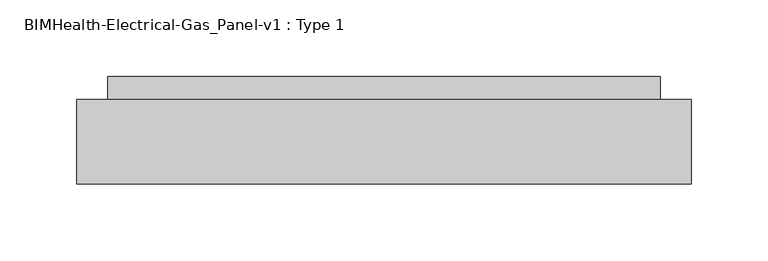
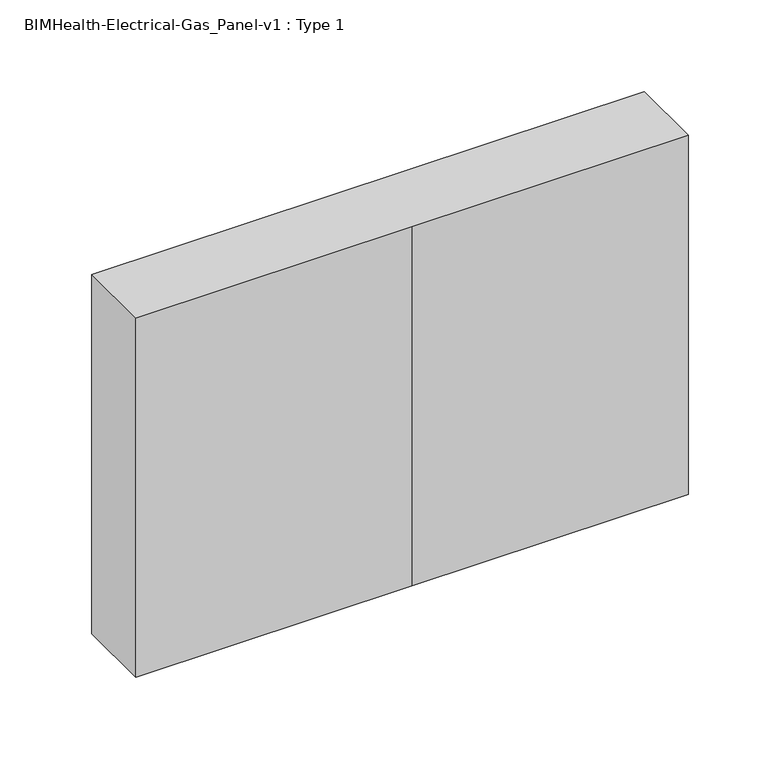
"""IFC4 building model written with IfcOpenShell, lengths in millimetres: proxy geometry, BIMHealth-Electrical-Gas_Panel-v1 : Type 1."""

from ifc_helpers import new_model, si_unit, frame, origin, place, context, project, spatial, polyline, outline, extrude, source, transform, mapped, element, save


def bimhealth_electrical_gas_panel_v1_type_1_a7d1eeb7(model_context):
    return source(origin(), model_context, "Body", "SweptSolid", [
        extrude(outline(polyline([(1379.7567641, 22.3988193), (1387.1413795, 25.3357184), (1387.1413795, 24.3477376), (1381.821067, 22.3807905), (1380.6221487, 21.982353), (1381.821067, 21.5893241), (1387.1413795, 19.6169684), (1387.1413795, 18.6307905), (1379.7567641, 21.4468962), (1379.7567641, 22.3988193)])), frame((0.0, 116.9965572, 0.0), z_axis=(0.0, 1.0, 0.0), x_axis=(0.0, 0.0, 1.0)), (0.0, 0.0, 1.0), 1.0),
        extrude(outline(polyline([(1380.1029179, 14.309276), (1379.8234708, 15.3197929), (1379.6413795, 16.3086751), (1380.0794804, 17.6491198), (1381.1990718, 18.1169684), (1382.9009949, 16.0310309), (1383.2183025, 14.4300693), (1384.3721487, 15.6993001), (1384.1945646, 16.6331943), (1383.679841, 18.0015837), (1384.5812833, 17.6022448), (1385.1095285, 16.7981583), (1385.2952256, 15.5803097), (1385.1311631, 14.4616198), (1383.2850093, 13.5015837), (1382.1365718, 13.5015837), (1380.5329059, 13.4547087), (1379.7567641, 13.2708145), (1380.1029179, 14.309276)]), holes=[polyline([(1381.8075453, 14.5003818), (1382.0121727, 15.9138434), (1381.8625333, 16.708014), (1380.5644564, 16.1121607), (1380.7853098, 15.1782664), (1381.8075453, 14.5003818)])]), frame((0.0, 116.9965572, 0.0), z_axis=(0.0, 1.0, 0.0), x_axis=(0.0, 0.0, 1.0)), (0.0, 0.0, 1.0), 1.0),
        extrude(outline(polyline([(1381.7183025, 8.7708145), (1381.6029179, 7.8477376), (1380.1615117, 8.5887232), (1379.6413795, 10.0526655), (1380.3670405, 11.802365), (1382.4484708, 12.4631222), (1383.9818242, 12.1809708), (1384.9671006, 11.3209948), (1385.2952256, 10.0652857), (1384.8445045, 8.66174), (1383.5644564, 7.9631222), (1383.4490718, 8.8861991), (1384.140478, 9.3143842), (1383.9160189, 11.1280861), (1382.4737112, 11.5400453), (1381.0178819, 11.1371006), (1380.5644564, 10.0833145), (1380.8475093, 9.2134227), (1381.7183025, 8.7708145)])), frame((0.0, 116.9965572, 0.0), z_axis=(0.0, 1.0, 0.0), x_axis=(0.0, 0.0, 1.0)), (0.0, 0.0, 1.0), 1.0),
        extrude(outline(polyline([(1379.7567641, 3.5785068), (1380.6888554, 3.5785068), (1379.6413795, 5.2443722), (1379.8252737, 6.1124611), (1381.8246727, 7.0400453), (1385.179841, 7.0400453), (1385.179841, 6.1169684), (1382.2591679, 6.1169684), (1381.3180622, 6.0610789), (1380.7699852, 4.2374611), (1382.3583266, 3.5785068), (1385.179841, 3.5785068), (1385.179841, 2.6554299), (1379.7567641, 2.6554299), (1379.7567641, 3.5785068)])), frame((0.0, 116.9965572, 0.0), z_axis=(0.0, 1.0, 0.0), x_axis=(0.0, 0.0, 1.0)), (0.0, 0.0, 1.0), 1.0),
        extrude(outline(polyline([(1379.7567641, -2.0753393), (1380.6888554, -2.0753393), (1379.6413795, -0.409474), (1379.8252737, 0.458615), (1381.8246727, 1.3861991), (1385.179841, 1.3861991), (1385.179841, 0.4631222), (1382.2591679, 0.4631222), (1381.3180622, 0.4072328), (1380.7699852, -1.416385), (1382.3583266, -2.0753393), (1385.179841, -2.0753393), (1385.179841, -2.9984163), (1379.7567641, -2.9984163), (1379.7567641, -2.0753393)])), frame((0.0, 116.9965572, 0.0), z_axis=(0.0, 1.0, 0.0), x_axis=(0.0, 0.0, 1.0)), (0.0, 0.0, 1.0), 1.0),
        extrude(outline(polyline([(1379.7567641, -4.267647), (1385.179841, -4.267647), (1385.179841, -5.190724), (1384.2874131, -5.190724), (1385.0184828, -5.8253393), (1385.2952256, -6.7285845), (1385.0130742, -7.6534643), (1384.2225093, -8.1618778), (1385.2952256, -9.7916855), (1384.8490117, -10.9987167), (1383.4743122, -11.4214932), (1379.7567641, -11.4214932), (1379.7567641, -10.4984163), (1383.0776775, -10.4984163), (1384.0025574, -8.6675869), (1382.8180622, -8.3061086), (1379.7567641, -8.3061086), (1379.7567641, -7.3830316), (1383.180442, -7.3830316), (1384.0746727, -7.1693898), (1382.49174, -5.190724), (1379.7567641, -5.190724), (1379.7567641, -4.267647)])), frame((0.0, 116.9965572, 0.0), z_axis=(0.0, 1.0, 0.0), x_axis=(0.0, 0.0, 1.0)), (0.0, 0.0, 1.0), 1.0),
        extrude(outline(polyline([(1379.7567641, 107.0785068), (1387.1413795, 107.0785068), (1387.1413795, 105.4955741), (1381.9364516, 103.981151), (1380.8493122, 103.6746607), (1382.0265958, 103.3447328), (1387.1413795, 101.8591559), (1387.1413795, 100.2708145), (1379.7567641, 100.2708145), (1379.7567641, 101.1938914), (1386.2183025, 101.1938914), (1379.7567641, 103.0490597), (1379.7567641, 104.2984587), (1386.2183025, 106.1554299), (1379.7567641, 106.1554299), (1379.7567641, 107.0785068)])), frame((0.0, 116.9965572, 0.0), z_axis=(0.0, 1.0, 0.0), x_axis=(0.0, 0.0, 1.0)), (0.0, 0.0, 1.0), 1.0),
        extrude(outline(polyline([(1381.3721487, 94.9739395), (1381.2567641, 94.0688914), (1380.0650574, 94.9153458), (1379.6413795, 96.4919684), (1380.3724492, 98.4084347), (1382.4232304, 99.1169684), (1384.5416199, 98.4012232), (1385.2952256, 96.544252), (1384.5434227, 94.740466), (1382.4286391, 94.0400453), (1382.179841, 98.1938914), (1380.9809227, 97.6629419), (1380.5644564, 96.4739395), (1380.757365, 95.5688914), (1381.3721487, 94.9739395)]), holes=[polyline([(1383.1029179, 98.1938914), (1383.1029179, 94.9631222), (1383.9394564, 95.3327135), (1384.3721487, 96.5478578), (1384.0268963, 97.6845765), (1383.1029179, 98.1938914)])]), frame((0.0, 116.9965572, 0.0), z_axis=(0.0, 1.0, 0.0), x_axis=(0.0, 0.0, 1.0)), (0.0, 0.0, 1.0), 1.0),
        extrude(outline(polyline([(1379.7567641, 89.7708145), (1380.6275574, 89.7708145), (1379.6413795, 91.2257424), (1379.9983506, 92.3687712), (1380.9944444, 93.1764635), (1382.4628939, 93.4631222), (1383.9322449, 93.1989996), (1384.9436631, 92.4075333), (1385.2952256, 91.2293482), (1385.0437232, 90.3783866), (1384.3901775, 89.7708145), (1387.1413795, 89.7708145), (1387.1413795, 88.8477376), (1379.7567641, 88.8477376), (1379.7567641, 89.7708145)]), holes=[polyline([(1382.4664997, 92.5400453), (1381.0377136, 92.1235789), (1380.5644564, 91.1410068), (1381.016079, 90.1701535), (1382.3961872, 89.7708145), (1383.8943843, 90.177365), (1384.3721487, 91.1788674), (1383.9133146, 92.1506222), (1382.4664997, 92.5400453)])]), frame((0.0, 116.9965572, 0.0), z_axis=(0.0, 1.0, 0.0), x_axis=(0.0, 0.0, 1.0)), (0.0, 0.0, 1.0), 1.0),
        extrude(outline(polyline([(86.5400453, 117.9965572), (87.4631222, 117.9965572), (87.4631222, 116.9965572), (86.5400453, 116.9965572), (86.5400453, 117.9965572)])), frame((0.0, 0.0, 1386.2183025), z_axis=(0.0, 0.0, 1.0), x_axis=(1.0, 0.0, 0.0)), (0.0, 0.0, 1.0), 0.9230769),
        extrude(outline(polyline([(86.5400453, 117.9965572), (87.4631222, 117.9965572), (87.4631222, 116.9965572), (86.5400453, 116.9965572), (86.5400453, 117.9965572)])), frame((0.0, 0.0, 1379.7567641), z_axis=(0.0, 0.0, 1.0), x_axis=(1.0, 0.0, 0.0)), (0.0, 0.0, 1.0), 5.4230769),
        extrude(outline(polyline([(1381.7183025, 81.6938914), (1381.6029179, 80.7708145), (1380.1615117, 81.5118001), (1379.6413795, 82.9757424), (1380.3670405, 84.7254419), (1382.4484708, 85.3861991), (1383.9818242, 85.1040477), (1384.9671006, 84.2440717), (1385.2952256, 82.9883626), (1384.8445045, 81.5848169), (1383.5644564, 80.8861991), (1383.4490718, 81.809276), (1384.140478, 82.2374611), (1383.9160189, 84.0511631), (1382.4737112, 84.4631222), (1381.0178819, 84.0601775), (1380.5644564, 83.0063914), (1380.8475093, 82.1364996), (1381.7183025, 81.6938914)])), frame((0.0, 116.9965572, 0.0), z_axis=(0.0, 1.0, 0.0), x_axis=(0.0, 0.0, 1.0)), (0.0, 0.0, 1.0), 1.0),
        extrude(outline(polyline([(1380.1029179, 76.3861991), (1379.8234708, 77.396716), (1379.6413795, 78.3855982), (1380.0794804, 79.7260429), (1381.1990718, 80.1938914), (1382.9009949, 78.1079539), (1383.2183025, 76.5069924), (1384.3721487, 77.7762232), (1384.1945646, 78.7101174), (1383.679841, 80.0785068), (1384.5812833, 79.6791679), (1385.1095285, 78.8750813), (1385.2952256, 77.6572328), (1385.1311631, 76.5385429), (1383.2850093, 75.5785068), (1382.1365718, 75.5785068), (1380.5329059, 75.5316318), (1379.7567641, 75.3477376), (1380.1029179, 76.3861991)]), holes=[polyline([(1381.8075453, 76.5773049), (1382.0121727, 77.9907664), (1381.8625333, 78.7849371), (1380.5644564, 78.1890837), (1380.7853098, 77.2551895), (1381.8075453, 76.5773049)])]), frame((0.0, 116.9965572, 0.0), z_axis=(0.0, 1.0, 0.0), x_axis=(0.0, 0.0, 1.0)), (0.0, 0.0, 1.0), 1.0),
        extrude(outline(polyline([(73.3861991, 117.9965572), (74.309276, 117.9965572), (74.309276, 116.9965572), (73.3861991, 116.9965572), (73.3861991, 117.9965572)])), frame((0.0, 0.0, 1379.7567641), z_axis=(0.0, 0.0, 1.0), x_axis=(1.0, 0.0, 0.0)), (0.0, 0.0, 1.0), 7.3846154),
        extrude(outline(polyline([(1379.7567641, 69.8597568), (1387.1413795, 66.9120405), (1387.1413795, 66.1259828), (1379.7567641, 63.1800693), (1379.7567641, 64.1554299), (1382.0644564, 64.9991799), (1382.0644564, 68.0424491), (1379.7567641, 68.8861991), (1379.7567641, 69.8597568)]), holes=[polyline([(1382.9875333, 67.7035068), (1382.9875333, 65.3363193), (1384.8030381, 66.0033866), (1386.2183025, 66.5208145), (1384.961692, 66.9805501), (1382.9875333, 67.7035068)])]), frame((0.0, 116.9965572, 0.0), z_axis=(0.0, 1.0, 0.0), x_axis=(0.0, 0.0, 1.0)), (0.0, 0.0, 1.0), 1.0),
        extrude(outline(polyline([(61.3861991, 117.9965572), (62.309276, 117.9965572), (62.309276, 116.9965572), (61.3861991, 116.9965572), (61.3861991, 117.9965572)])), frame((0.0, 0.0, 1386.2183025), z_axis=(0.0, 0.0, 1.0), x_axis=(1.0, 0.0, 0.0)), (0.0, 0.0, 1.0), 0.9230769),
        extrude(outline(polyline([(61.3861991, 117.9965572), (62.309276, 117.9965572), (62.309276, 116.9965572), (61.3861991, 116.9965572), (61.3861991, 117.9965572)])), frame((0.0, 0.0, 1379.7567641), z_axis=(0.0, 0.0, 1.0), x_axis=(1.0, 0.0, 0.0)), (0.0, 0.0, 1.0), 5.4230769),
        extrude(outline(polyline([(1379.7567641, 60.0015837), (1385.179841, 60.0015837), (1385.179841, 59.1938914), (1384.3775574, 59.1938914), (1385.11674, 58.6205741), (1385.0103699, 57.1169684), (1384.1828458, 57.4252616), (1382.6071247, 59.0785068), (1379.7567641, 59.0785068), (1379.7567641, 60.0015837)])), frame((0.0, 116.9965572, 0.0), z_axis=(0.0, 1.0, 0.0), x_axis=(0.0, 0.0, 1.0)), (0.0, 0.0, 1.0), 1.0),
        extrude(outline(polyline([(1383.351716, 183.6746607), (1386.2201054, 182.6902857), (1387.2567641, 180.1500212), (1386.7699852, 178.3128818), (1385.4124131, 177.0652857), (1383.4364516, 176.6361991), (1381.4334468, 177.0878217), (1380.0957064, 178.3678698), (1379.6413795, 180.1554299), (1380.1434828, 182.012401), (1381.5136751, 183.2527857), (1383.351716, 183.6746607)]), holes=[polyline([(1383.3427016, 182.7515837), (1381.3072449, 182.0133025), (1380.5644564, 180.1608385), (1381.3144564, 178.2921486), (1383.4436631, 177.559276), (1384.9671006, 177.872978), (1385.9758146, 178.7897448), (1386.3336872, 180.1446126), (1385.6440838, 181.981752), (1383.3427016, 182.7515837)])]), frame((0.0, 116.9965572, 0.0), z_axis=(0.0, 1.0, 0.0), x_axis=(0.0, 0.0, 1.0)), (0.0, 0.0, 1.0), 1.0),
        extrude(outline(polyline([(1379.7567641, 176.059276), (1382.4845285, 174.0869203), (1385.179841, 175.9438914), (1385.179841, 174.8369203), (1383.8799612, 173.9408866), (1385.179841, 172.1361991), (1385.179841, 171.0256222), (1382.4827256, 172.9763434), (1379.7567641, 171.0977376), (1379.7567641, 172.2065116), (1381.3973891, 173.3387232), (1379.7567641, 174.9486991), (1379.7567641, 176.059276)])), frame((0.0, 116.9965572, 0.0), z_axis=(0.0, 1.0, 0.0), x_axis=(0.0, 0.0, 1.0)), (0.0, 0.0, 1.0), 1.0),
        extrude(outline(polyline([(1377.7258146, 169.6491198), (1378.5686631, 170.4054299), (1385.179841, 170.8669684), (1385.179841, 169.8952135), (1382.1672208, 168.8531462), (1380.9628939, 168.4907664), (1382.0283987, 168.1283866), (1385.179841, 167.059276), (1385.179841, 166.0947328), (1379.6269564, 167.982353), (1378.4226295, 168.4727376), (1377.7258146, 169.6491198)])), frame((0.0, 116.9965572, 0.0), z_axis=(0.0, 1.0, 0.0), x_axis=(0.0, 0.0, 1.0)), (0.0, 0.0, 1.0), 1.0),
        extrude(outline(polyline([(1379.2952256, 165.559276), (1379.179841, 164.6361991), (1378.4875333, 163.4408866), (1378.7201054, 162.4961751), (1379.3727497, 162.0454539), (1380.4490718, 161.982353), (1379.7567641, 163.4246607), (1380.5626535, 165.0860188), (1382.4953458, 165.6746607), (1383.9259348, 165.4105381), (1384.9382545, 164.646115), (1385.2952256, 163.4697328), (1384.4875333, 161.982353), (1385.179841, 161.059276), (1380.4977497, 161.059276), (1378.7047809, 161.3116799), (1377.8709468, 162.1112592), (1377.5644564, 163.4589155), (1377.9962473, 164.9940717), (1379.2952256, 165.559276)]), holes=[polyline([(1382.5584468, 164.7515837), (1381.1296607, 164.3576535), (1380.679841, 163.3687712), (1381.1269564, 162.3816919), (1382.5314035, 161.982353), (1383.9079059, 162.3934107), (1384.3721487, 163.3831943), (1383.9151174, 164.3522448), (1382.5584468, 164.7515837)])]), frame((0.0, 116.9965572, 0.0), z_axis=(0.0, 1.0, 0.0), x_axis=(0.0, 0.0, 1.0)), (0.0, 0.0, 1.0), 1.0),
        extrude(outline(polyline([(1381.3721487, 155.8777857), (1381.2567641, 154.9727376), (1380.0650574, 155.8191919), (1379.6413795, 157.3958145), (1380.3724492, 159.3122809), (1382.4232304, 160.0208145), (1384.5416199, 159.3050693), (1385.2952256, 157.4480982), (1384.5434227, 155.6443121), (1382.4286391, 154.9438914), (1382.179841, 159.0977376), (1380.9809227, 158.5667881), (1380.5644564, 157.3777857), (1380.757365, 156.4727376), (1381.3721487, 155.8777857)]), holes=[polyline([(1383.1029179, 159.0977376), (1383.1029179, 155.8669684), (1383.9394564, 156.2365597), (1384.3721487, 157.4517039), (1384.0268963, 158.5884227), (1383.1029179, 159.0977376)])]), frame((0.0, 116.9965572, 0.0), z_axis=(0.0, 1.0, 0.0), x_axis=(0.0, 0.0, 1.0)), (0.0, 0.0, 1.0), 1.0),
        extrude(outline(polyline([(1379.7567641, 154.0208145), (1385.179841, 154.0208145), (1385.179841, 153.0977376), (1385.2952256, 151.4282664), (1385.1194444, 150.5565717), (1383.086692, 149.6361991), (1379.7567641, 149.6361991), (1379.7567641, 150.559276), (1382.9622929, 150.559276), (1383.7789997, 150.6656462), (1384.0097689, 152.676764), (1382.6341679, 153.0977376), (1379.7567641, 153.0977376), (1379.7567641, 154.0208145)])), frame((0.0, 116.9965572, 0.0), z_axis=(0.0, 1.0, 0.0), x_axis=(0.0, 0.0, 1.0)), (0.0, 0.0, 1.0), 1.0),
        extrude(outline(polyline([(1369.7567641, 258.3285068), (1377.1413795, 258.3285068), (1377.1413795, 256.7455741), (1371.9364516, 255.231151), (1370.8493122, 254.9246607), (1372.0265958, 254.5947328), (1377.1413795, 253.1091559), (1377.1413795, 251.5208145), (1369.7567641, 251.5208145), (1369.7567641, 252.4438914), (1376.2183025, 252.4438914), (1369.7567641, 254.2990597), (1369.7567641, 255.5484587), (1376.2183025, 257.4054299), (1369.7567641, 257.4054299), (1369.7567641, 258.3285068)])), frame((0.0, 116.9965572, 0.0), z_axis=(0.0, 1.0, 0.0), x_axis=(0.0, 0.0, 1.0)), (0.0, 0.0, 1.0), 1.0),
        extrude(outline(polyline([(1371.3721487, 246.2239395), (1371.2567641, 245.3188914), (1370.0650574, 246.1653458), (1369.6413795, 247.7419684), (1370.3724492, 249.6584347), (1372.4232304, 250.3669684), (1374.5416199, 249.6512232), (1375.2952256, 247.794252), (1374.5434227, 245.990466), (1372.4286391, 245.2900453), (1372.179841, 249.4438914), (1370.9809227, 248.9129419), (1370.5644564, 247.7239395), (1370.757365, 246.8188914), (1371.3721487, 246.2239395)]), holes=[polyline([(1373.1029179, 249.4438914), (1373.1029179, 246.2131222), (1373.9394564, 246.5827135), (1374.3721487, 247.7978578), (1374.0268963, 248.9345765), (1373.1029179, 249.4438914)])]), frame((0.0, 116.9965572, 0.0), z_axis=(0.0, 1.0, 0.0), x_axis=(0.0, 0.0, 1.0)), (0.0, 0.0, 1.0), 1.0),
        extrude(outline(polyline([(1369.7567641, 241.0208145), (1370.6275574, 241.0208145), (1369.6413795, 242.4757424), (1369.9983506, 243.6187712), (1370.9944444, 244.4264635), (1372.4628939, 244.7131222), (1373.9322449, 244.4489996), (1374.9436631, 243.6575333), (1375.2952256, 242.4793482), (1375.0437232, 241.6283866), (1374.3901775, 241.0208145), (1377.1413795, 241.0208145), (1377.1413795, 240.0977376), (1369.7567641, 240.0977376), (1369.7567641, 241.0208145)]), holes=[polyline([(1372.4664997, 243.7900453), (1371.0377136, 243.3735789), (1370.5644564, 242.3910068), (1371.016079, 241.4201535), (1372.3961872, 241.0208145), (1373.8943843, 241.427365), (1374.3721487, 242.4288674), (1373.9133146, 243.4006222), (1372.4664997, 243.7900453)])]), frame((0.0, 116.9965572, 0.0), z_axis=(0.0, 1.0, 0.0), x_axis=(0.0, 0.0, 1.0)), (0.0, 0.0, 1.0), 1.0),
        extrude(outline(polyline([(237.7900453, 117.9965572), (238.7131222, 117.9965572), (238.7131222, 116.9965572), (237.7900453, 116.9965572), (237.7900453, 117.9965572)])), frame((0.0, 0.0, 1376.2183025), z_axis=(0.0, 0.0, 1.0), x_axis=(1.0, 0.0, 0.0)), (0.0, 0.0, 1.0), 0.9230769),
        extrude(outline(polyline([(237.7900453, 117.9965572), (238.7131222, 117.9965572), (238.7131222, 116.9965572), (237.7900453, 116.9965572), (237.7900453, 117.9965572)])), frame((0.0, 0.0, 1369.7567641), z_axis=(0.0, 0.0, 1.0), x_axis=(1.0, 0.0, 0.0)), (0.0, 0.0, 1.0), 5.4230769),
        extrude(outline(polyline([(1371.7183025, 232.9438914), (1371.6029179, 232.0208145), (1370.1615117, 232.7618001), (1369.6413795, 234.2257424), (1370.3670405, 235.9754419), (1372.4484708, 236.6361991), (1373.9818242, 236.3540477), (1374.9671006, 235.4940717), (1375.2952256, 234.2383626), (1374.8445045, 232.8348169), (1373.5644564, 232.1361991), (1373.4490718, 233.059276), (1374.140478, 233.4874611), (1373.9160189, 235.3011631), (1372.4737112, 235.7131222), (1371.0178819, 235.3101775), (1370.5644564, 234.2563914), (1370.8475093, 233.3864996), (1371.7183025, 232.9438914)])), frame((0.0, 116.9965572, 0.0), z_axis=(0.0, 1.0, 0.0), x_axis=(0.0, 0.0, 1.0)), (0.0, 0.0, 1.0), 1.0),
        extrude(outline(polyline([(1370.1029179, 227.6361991), (1369.8234708, 228.646716), (1369.6413795, 229.6355982), (1370.0794804, 230.9760429), (1371.1990718, 231.4438914), (1372.9009949, 229.3579539), (1373.2183025, 227.7569924), (1374.3721487, 229.0262232), (1374.1945646, 229.9601174), (1373.679841, 231.3285068), (1374.5812833, 230.9291679), (1375.1095285, 230.1250813), (1375.2952256, 228.9072328), (1375.1311631, 227.7885429), (1373.2850093, 226.8285068), (1372.1365718, 226.8285068), (1370.5329059, 226.7816318), (1369.7567641, 226.5977376), (1370.1029179, 227.6361991)]), holes=[polyline([(1371.8075453, 227.8273049), (1372.0121727, 229.2407664), (1371.8625333, 230.0349371), (1370.5644564, 229.4390837), (1370.7853098, 228.5051895), (1371.8075453, 227.8273049)])]), frame((0.0, 116.9965572, 0.0), z_axis=(0.0, 1.0, 0.0), x_axis=(0.0, 0.0, 1.0)), (0.0, 0.0, 1.0), 1.0),
        extrude(outline(polyline([(224.6361991, 117.9965572), (225.559276, 117.9965572), (225.559276, 116.9965572), (224.6361991, 116.9965572), (224.6361991, 117.9965572)])), frame((0.0, 0.0, 1369.7567641), z_axis=(0.0, 0.0, 1.0), x_axis=(1.0, 0.0, 0.0)), (0.0, 0.0, 1.0), 7.3846154),
        extrude(outline(polyline([(1363.5259949, 254.8669684), (1364.4490718, 254.8669684), (1364.4490718, 251.8669684), (1361.6888554, 251.8669684), (1360.8180622, 253.3480381), (1360.5259949, 254.9138434), (1360.9902376, 256.8852977), (1362.3342881, 258.2230381), (1364.2976295, 258.6746607), (1366.3051415, 258.224841), (1367.6888554, 256.9312712), (1368.1413795, 254.9877616), (1367.8790598, 253.543651), (1367.1488915, 252.5313313), (1365.9274372, 251.9733385), (1365.6876535, 252.8243001), (1366.5413194, 253.2452736), (1367.0335069, 253.9646246), (1367.2183025, 255.0021847), (1367.0190838, 256.1839756), (1366.4962473, 256.9880621), (1365.7850093, 257.4631222), (1364.33549, 257.7515837), (1362.7264155, 257.4045285), (1361.7636751, 256.3949131), (1361.4490718, 254.9877616), (1361.6861511, 253.724841), (1362.1918602, 252.7900453), (1363.5259949, 252.7900453), (1363.5259949, 254.8669684)])), frame((0.0, 116.9965572, 0.0), z_axis=(0.0, 1.0, 0.0), x_axis=(0.0, 0.0, 1.0)), (0.0, 0.0, 1.0), 1.0),
        extrude(outline(polyline([(1360.9875333, 246.9054299), (1360.7080862, 247.9159467), (1360.5259949, 248.9048289), (1360.9640958, 250.2452736), (1362.0836872, 250.7131222), (1363.7856102, 248.6271847), (1364.1029179, 247.0262232), (1365.2567641, 248.2954539), (1365.0791799, 249.2293482), (1364.5644564, 250.5977376), (1365.4658987, 250.1983986), (1365.9941439, 249.3943121), (1366.179841, 248.1764635), (1366.0157785, 247.0577736), (1364.1696247, 246.0977376), (1363.0211872, 246.0977376), (1361.4175213, 246.0508626), (1360.6413795, 245.8669684), (1360.9875333, 246.9054299)]), holes=[polyline([(1362.6921607, 247.0965357), (1362.8967881, 248.5099972), (1362.7471487, 249.3041679), (1361.4490718, 248.7083145), (1361.6699251, 247.7744203), (1362.6921607, 247.0965357)])]), frame((0.0, 116.9965572, 0.0), z_axis=(0.0, 1.0, 0.0), x_axis=(0.0, 0.0, 1.0)), (0.0, 0.0, 1.0), 1.0),
        extrude(outline(polyline([(1362.2567641, 245.1746607), (1362.3721487, 244.2515837), (1361.6870525, 243.8243001), (1361.4490718, 242.8453337), (1361.6672208, 241.904228), (1362.8571247, 242.856151), (1363.3087473, 244.2461751), (1363.836091, 244.8528458), (1366.179841, 243.059877), (1365.9986511, 241.9366799), (1365.5082665, 241.2227376), (1364.679841, 240.9054299), (1364.5644564, 241.8285068), (1365.2567641, 242.9877616), (1365.0818843, 243.8711751), (1364.0055622, 242.8868001), (1363.571067, 241.5319323), (1363.0788795, 240.9027256), (1362.2765958, 240.6746607), (1361.3931824, 240.942389), (1360.7522569, 241.7149251), (1360.5259949, 242.8579539), (1360.9622929, 244.4679299), (1362.2567641, 245.1746607)])), frame((0.0, 116.9965572, 0.0), z_axis=(0.0, 1.0, 0.0), x_axis=(0.0, 0.0, 1.0)), (0.0, 0.0, 1.0), 1.0),
        extrude(outline(polyline([(1351.5259949, 259.1866799), (1358.9106102, 256.2389635), (1358.9106102, 255.4529059), (1351.5259949, 252.5069924), (1351.5259949, 253.482353), (1353.8336872, 254.326103), (1353.8336872, 257.3693722), (1351.5259949, 258.2131222), (1351.5259949, 259.1866799)]), holes=[polyline([(1354.7567641, 257.0304299), (1354.7567641, 254.6632424), (1356.5722689, 255.3303097), (1357.9875333, 255.8477376), (1356.7309227, 256.3074732), (1354.7567641, 257.0304299)])]), frame((0.0, 116.9965572, 0.0), z_axis=(0.0, 1.0, 0.0), x_axis=(0.0, 0.0, 1.0)), (0.0, 0.0, 1.0), 1.0),
        extrude(outline(polyline([(250.7131222, 117.9965572), (251.6361991, 117.9965572), (251.6361991, 116.9965572), (250.7131222, 116.9965572), (250.7131222, 117.9965572)])), frame((0.0, 0.0, 1351.5259949), z_axis=(0.0, 0.0, 1.0), x_axis=(1.0, 0.0, 0.0)), (0.0, 0.0, 1.0), 7.3846154),
        extrude(outline(polyline([(1351.8721487, 245.7515837), (1351.5927016, 246.7621006), (1351.4106102, 247.7509828), (1351.8487112, 249.0914275), (1352.9683025, 249.559276), (1354.6702256, 247.4733385), (1354.9875333, 245.872377), (1356.1413795, 247.1416078), (1355.9637953, 248.075502), (1355.4490718, 249.4438914), (1356.3505141, 249.0445525), (1356.8787593, 248.240466), (1357.0644564, 247.0226174), (1356.9003939, 245.9039275), (1355.05424, 244.9438914), (1353.9058025, 244.9438914), (1352.3021367, 244.8970164), (1351.5259949, 244.7131222), (1351.8721487, 245.7515837)]), holes=[polyline([(1353.5767761, 245.9426895), (1353.7814035, 247.356151), (1353.6317641, 248.1503217), (1352.3336872, 247.5544684), (1352.5545405, 246.6205741), (1353.5767761, 245.9426895)])]), frame((0.0, 116.9965572, 0.0), z_axis=(0.0, 1.0, 0.0), x_axis=(0.0, 0.0, 1.0)), (0.0, 0.0, 1.0), 1.0),
        extrude(outline(polyline([(1351.5259949, 243.6746607), (1356.9490718, 243.6746607), (1356.9490718, 242.8669684), (1356.1467881, 242.8669684), (1356.8859708, 242.293651), (1356.7796006, 240.7900453), (1355.9520766, 241.0983385), (1354.3763554, 242.7515837), (1351.5259949, 242.7515837), (1351.5259949, 243.6746607)])), frame((0.0, 116.9965572, 0.0), z_axis=(0.0, 1.0, 0.0), x_axis=(0.0, 0.0, 1.0)), (0.0, 0.0, 1.0), 1.0),
        extrude(outline(polyline([(1351.5259949, 240.2131222), (1356.9490718, 240.2131222), (1356.9490718, 239.2900453), (1356.0566439, 239.2900453), (1356.7877136, 238.6554299), (1357.0644564, 237.7521847), (1356.7823049, 236.8273049), (1355.99174, 236.3188914), (1357.0644564, 234.6890837), (1356.6182424, 233.4820525), (1355.2435429, 233.059276), (1351.5259949, 233.059276), (1351.5259949, 233.982353), (1354.8469083, 233.982353), (1355.7717881, 235.8131823), (1354.5872929, 236.1746607), (1351.5259949, 236.1746607), (1351.5259949, 237.0977376), (1354.9496727, 237.0977376), (1355.8439035, 237.3113794), (1354.2609708, 239.2900453), (1351.5259949, 239.2900453), (1351.5259949, 240.2131222)])), frame((0.0, 116.9965572, 0.0), z_axis=(0.0, 1.0, 0.0), x_axis=(0.0, 0.0, 1.0)), (0.0, 0.0, 1.0), 1.0),
        extrude(outline(polyline([(270.0, 112.9289322), (215.0, 112.9289322), (215.0, 116.9965572), (270.0, 116.9965572), (270.0, 112.9289322)])), frame((0.0, 0.0, 1274.2652821), z_axis=(0.0, 0.0, 1.0), x_axis=(1.0, 0.0, 0.0)), (0.0, 0.0, 1.0), 125.0),
        extrude(outline(polyline([(195.0, 112.9289322), (140.0, 112.9289322), (140.0, 116.9965572), (195.0, 116.9965572), (195.0, 112.9289322)])), frame((0.0, 0.0, 1274.2652821), z_axis=(0.0, 0.0, 1.0), x_axis=(1.0, 0.0, 0.0)), (0.0, 0.0, 1.0), 125.0),
        extrude(outline(polyline([(35.0, 112.9289322), (-20.0, 112.9289322), (-20.0, 116.9965572), (35.0, 116.9965572), (35.0, 112.9289322)])), frame((0.0, 0.0, 1274.2652821), z_axis=(0.0, 0.0, 1.0), x_axis=(1.0, 0.0, 0.0)), (0.0, 0.0, 1.0), 125.0),
        extrude(outline(polyline([(110.0, 112.9289322), (55.0, 112.9289322), (55.0, 116.9965572), (110.0, 116.9965572), (110.0, 112.9289322)])), frame((0.0, 0.0, 1274.2652821), z_axis=(0.0, 0.0, 1.0), x_axis=(1.0, 0.0, 0.0)), (0.0, 0.0, 1.0), 125.0),
        extrude(outline(polyline([(105.0, 1457.5), (120.0, 1457.5), (120.0, 1427.5), (112.9289322, 1420.4289322), (112.9289322, 1254.5710678), (120.0, 1247.5), (120.0, 1217.5), (105.0, 1217.5), (105.0, 1457.5)])), frame((-55.0, 0.0, 0.0), z_axis=(1.0, 0.0, 0.0), x_axis=(0.0, 1.0, 0.0)), (0.0, 0.0, 1.0), 360.0),
        extrude(outline(polyline([(-75.0, 50.0), (-75.0, 105.0), (325.0, 105.0), (325.0, 50.0), (125.0, 50.0), (-75.0, 50.0)])), frame((0.0, 0.0, 1200.0), z_axis=(0.0, 0.0, 1.0), x_axis=(1.0, 0.0, 0.0)), (0.0, 0.0, 1.0), 275.0),
    ])


if __name__ == "__main__":
    model = new_model("IFC4")
    model_context = context("Model", 3, world=origin())
    ifc_project = project(units=[si_unit("LENGTHUNIT", "METRE", prefix="MILLI")], contexts=[model_context])
    site = spatial("IfcSite", under=ifc_project)
    building = spatial("IfcBuilding", under=site)
    placement = place(None, origin())
    bimhealth_electrical_gas_panel_v1_type_1_shape = bimhealth_electrical_gas_panel_v1_type_1_a7d1eeb7(model_context)
    element("IfcBuildingElementProxy", 1, Name="BIMHealth-Electrical-Gas_Panel-v1 : Type 1", ObjectType="BIMHealth-Electrical-Gas_Panel-v1 : Type 1", at=placement, inside=building, context=model_context, shape_type="MappedRepresentation", body=[
        mapped(bimhealth_electrical_gas_panel_v1_type_1_shape, transform((0.0, 0.0, 0.0), x_axis=(1.0, 0.0, 0.0), y_axis=(0.0, 1.0, 0.0), z_axis=(0.0, 0.0, 1.0))),
    ])
    save(model, "model.ifc")
